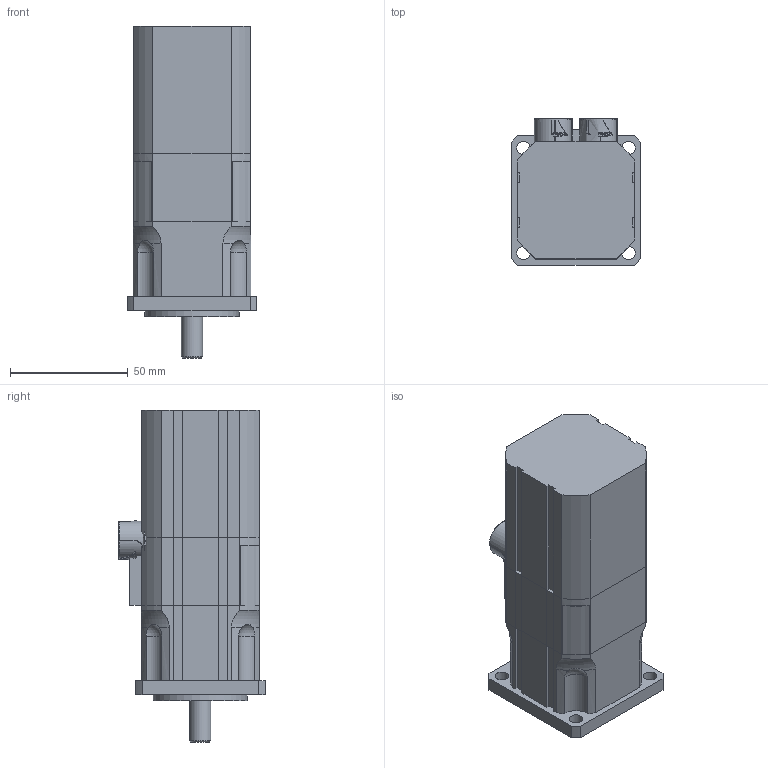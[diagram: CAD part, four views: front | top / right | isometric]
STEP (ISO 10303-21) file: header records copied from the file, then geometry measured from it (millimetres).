
FILE_DESCRIPTION(/* description */ ('Alibre Inc.'),/* implementation_level */ '2;1');
FILE_NAME(/* name */ 'export0',/* time_stamp */ '2011-03-11T13:39:31+01:00',/* author */ (''),/* organization */ (''),/* preprocessor_version */ 'ST-DEVELOPER v12',/* originating_system */ 'Alibre',/* authorisation */ '');
FILE_SCHEMA (('ALIBRE_SCHEMA','CONFIG_CONTROL_DESIGN'));
Length unit declared in the file: millimetre
Products named in the file (4): ID_1
Bounding box: 55 x 62.09 x 141 mm (x, y, z)
Volume: 385370.6 mm3; surface area: 51347.7 mm2
Topology: 3 solids, 4 shells, 1368 faces, 3360 edges, 2040 vertices
Faces by surface type: bspline 491, plane 364, cylinder 347, torus 86, cone 50, sphere 30
Full cylindrical faces by diameter (mm): 1 x21, 1.5 x1, 1.8 x2, 3.2 x4, 4 x1, 7.5 x1, 8 x1, 9 x1, 11.75 x1, 16.2 x1, 16.95 x1, 17.025 x1, 18.8 x1, 19.8 x1, 20 x1, 22.765 x1, 26 x1, 40 x1
Entity records: 148630 total; most frequent: CARTESIAN_POINT 84317, ORIENTED_EDGE 13050, DIRECTION 10147, EDGE_CURVE 6525, AXIS2_PLACEMENT_3D 4273, VERTEX_POINT 4143, EDGE_LOOP 3294, FACE_BOUND 3294
